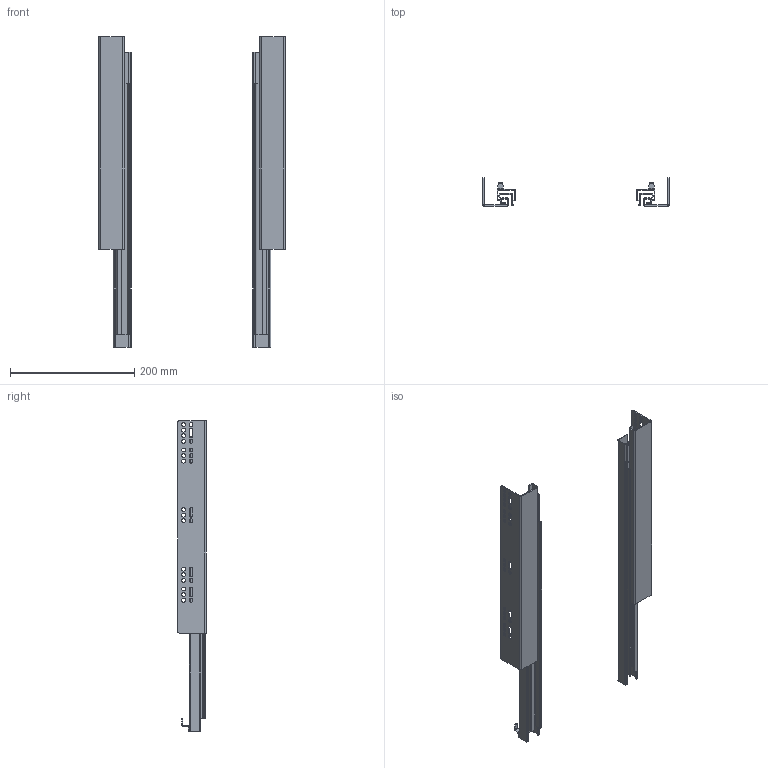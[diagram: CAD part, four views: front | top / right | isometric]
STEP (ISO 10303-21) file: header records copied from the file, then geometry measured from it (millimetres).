
FILE_DESCRIPTION (( 'STEP AP203' ), '1' );
FILE_NAME ('374233.STEP', '2026-02-11T12:44:34', ( '' ), ( '' ), 'SwSTEP 2.0', 'SolidWorks 2025', '' );
FILE_SCHEMA (( 'CONFIG_CONTROL_DESIGN' ));
Length unit declared in the file: millimetre
Products named in the file (3): výsuv_NL500; 374233; výsuv levý_NL500
Assembly tree (2 placements, depth 2):
  374233
    výsuv_NL500
    výsuv levý_NL500
Bounding box: 300 x 46 x 500 mm (x, y, z)
Volume: 261444 mm3; surface area: 375084.6 mm2
Topology: 8 solids, 8 shells, 512 faces, 1220 edges, 724 vertices
Faces by surface type: plane 286, cylinder 208, bspline 18
Entity records: 15343 total; most frequent: CARTESIAN_POINT 2909, DIRECTION 2586, ORIENTED_EDGE 2440, EDGE_CURVE 1220, AXIS2_PLACEMENT_3D 907, LINE 772, VECTOR 772, VERTEX_POINT 724
